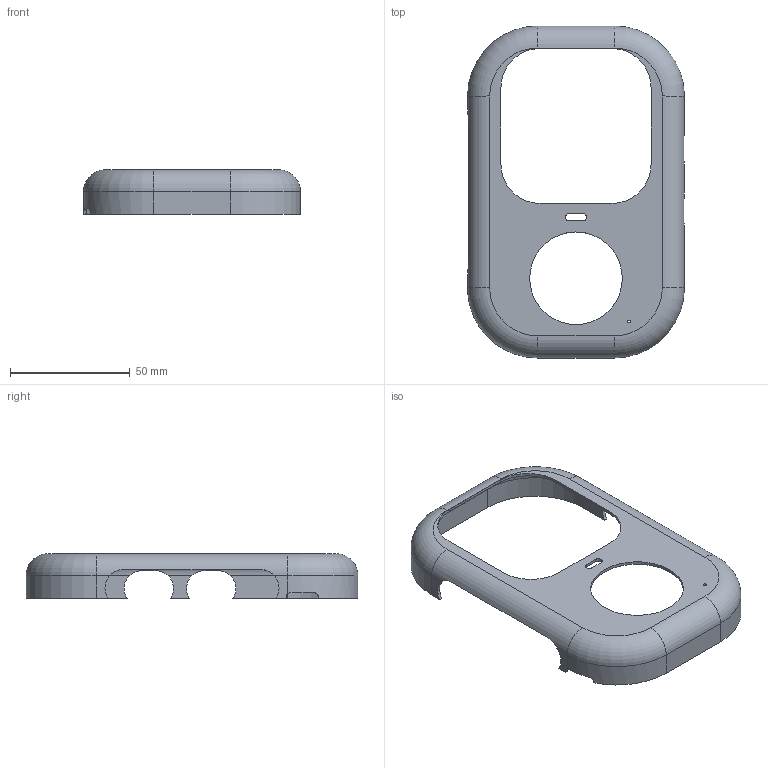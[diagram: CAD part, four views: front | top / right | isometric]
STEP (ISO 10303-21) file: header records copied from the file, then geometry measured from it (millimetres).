
FILE_DESCRIPTION(('Open CASCADE Model'),'2;1');
FILE_NAME('Open CASCADE Shape Model','2026-09-08T11:26:26',('Author'),( 'Open CASCADE'),'Open CASCADE STEP processor 7.8','build123d', 'Unknown');
FILE_SCHEMA(('AUTOMOTIVE_DESIGN { 1 0 10303 214 1 1 1 1 }'));
Length unit declared in the file: millimetre
Products named in the file (1): SOLID
Bounding box: 90.4 x 138.4 x 18.6 mm (x, y, z)
Volume: 13165.9 mm3; surface area: 22957.6 mm2
Topology: 1 solids, 1 shells, 88 faces, 242 edges, 156 vertices
Faces by surface type: plane 40, cylinder 40, torus 8
Full cylindrical faces by diameter (mm): 1.2 x1, 38.6 x1
Entity records: 6836 total; most frequent: CARTESIAN_POINT 2033, DIRECTION 908, LINE 526, VECTOR 526, ORIENTED_EDGE 484, PCURVE 484, DEFINITIONAL_REPRESENTATION 484, EDGE_CURVE 242
